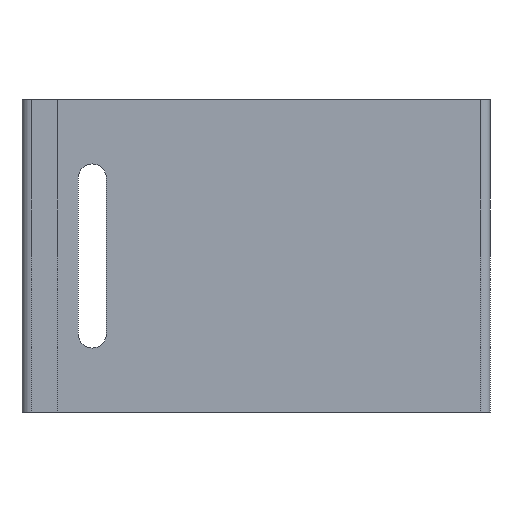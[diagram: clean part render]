
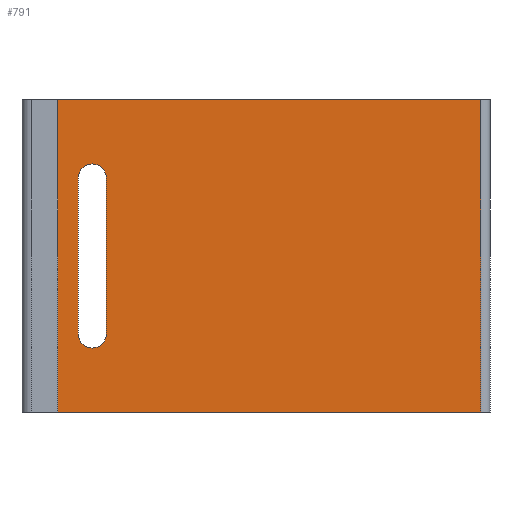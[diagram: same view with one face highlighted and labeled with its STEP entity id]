
A CAD part, front view. The second image highlights one B-rep face of the part: STEP entity #791.
In plain terms, the highlighted planar face has unit normal (0, -1, 0).
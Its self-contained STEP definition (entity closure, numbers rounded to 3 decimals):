
#7 = VERTEX_POINT ( 'NONE', #164 ) ;
#19 = VERTEX_POINT ( 'NONE', #801 ) ;
#20 = VERTEX_POINT ( 'NONE', #809 ) ;
#31 = VERTEX_POINT ( 'NONE', #797 ) ;
#158 = EDGE_CURVE ( 'NONE', #930, #946, #356, .T. ) ;
#160 = EDGE_LOOP ( 'NONE', ( #831, #934, #953, #951, #950 ) ) ;
#164 = CARTESIAN_POINT ( 'NONE',  ( 15.5, 45., 25. ) ) ;
#320 = FACE_OUTER_BOUND ( 'NONE', #933, .T. ) ;
#351 = DIRECTION ( 'NONE',  ( 0., 0., -1. ) ) ;
#352 = VECTOR ( 'NONE', #351, 1000. ) ;
#356 = LINE ( 'NONE', #368, #352 ) ;
#368 = CARTESIAN_POINT ( 'NONE',  ( 6.5, 45., 25. ) ) ;
#370 = VECTOR ( 'NONE', #420, 1000. ) ;
#371 = CARTESIAN_POINT ( 'NONE',  ( -8.5, 45., 50. ) ) ;
#372 = LINE ( 'NONE', #371, #370 ) ;
#375 = AXIS2_PLACEMENT_3D ( 'NONE', #391, #379, #387 ) ;
#379 = DIRECTION ( 'NONE',  ( 0., 1., 0. ) ) ;
#385 = PLANE ( 'NONE',  #375 ) ;
#386 = FACE_BOUND ( 'NONE', #160, .T. ) ;
#387 = DIRECTION ( 'NONE',  ( 0., 0., 1. ) ) ;
#391 = CARTESIAN_POINT ( 'NONE',  ( -11.5, 45., 50. ) ) ;
#420 = DIRECTION ( 'NONE',  ( 0., 0., -1. ) ) ;
#452 = CARTESIAN_POINT ( 'NONE',  ( 135.5, 45., -50. ) ) ;
#467 = CARTESIAN_POINT ( 'NONE',  ( 135.5, 45., 50. ) ) ;
#474 = LINE ( 'NONE', #512, #511 ) ;
#488 = CARTESIAN_POINT ( 'NONE',  ( -8.5, 45., -50. ) ) ;
#510 = DIRECTION ( 'NONE',  ( 1., 0., 0. ) ) ;
#511 = VECTOR ( 'NONE', #510, 1000. ) ;
#512 = CARTESIAN_POINT ( 'NONE',  ( -11.5, 45., 50. ) ) ;
#544 = DIRECTION ( 'NONE',  ( 1., 0., 0. ) ) ;
#545 = VECTOR ( 'NONE', #544, 1000. ) ;
#546 = CARTESIAN_POINT ( 'NONE',  ( -11.5, 45., -50. ) ) ;
#559 = LINE ( 'NONE', #546, #545 ) ;
#581 = CIRCLE ( 'NONE', #659, 4.5 ) ;
#607 = DIRECTION ( 'NONE',  ( 0., 0., -1. ) ) ;
#608 = VECTOR ( 'NONE', #607, 1000. ) ;
#609 = CARTESIAN_POINT ( 'NONE',  ( 135.5, 45., 50. ) ) ;
#611 = LINE ( 'NONE', #609, #608 ) ;
#616 = DIRECTION ( 'NONE',  ( 0., 0., 1. ) ) ;
#617 = VECTOR ( 'NONE', #616, 1000. ) ;
#618 = CARTESIAN_POINT ( 'NONE',  ( 15.5, 45., 25. ) ) ;
#620 = AXIS2_PLACEMENT_3D ( 'NONE', #645, #644, #643 ) ;
#621 = LINE ( 'NONE', #618, #617 ) ;
#637 = CARTESIAN_POINT ( 'NONE',  ( 6.5, 45., 25. ) ) ;
#638 = CARTESIAN_POINT ( 'NONE',  ( 6.5, 45., -25. ) ) ;
#640 = DIRECTION ( 'NONE',  ( 0., 0., -1. ) ) ;
#641 = DIRECTION ( 'NONE',  ( 0., -1., 0. ) ) ;
#642 = AXIS2_PLACEMENT_3D ( 'NONE', #646, #641, #640 ) ;
#643 = DIRECTION ( 'NONE',  ( 0., 0., -1. ) ) ;
#644 = DIRECTION ( 'NONE',  ( 0., -1., 0. ) ) ;
#645 = CARTESIAN_POINT ( 'NONE',  ( 11., 45., -25. ) ) ;
#646 = CARTESIAN_POINT ( 'NONE',  ( 11., 45., -25. ) ) ;
#647 = CIRCLE ( 'NONE', #642, 4.5 ) ;
#651 = CIRCLE ( 'NONE', #620, 4.5 ) ;
#656 = DIRECTION ( 'NONE',  ( 0., 0., -1. ) ) ;
#657 = DIRECTION ( 'NONE',  ( 0., -1., 0. ) ) ;
#658 = CARTESIAN_POINT ( 'NONE',  ( 11., 45., 25. ) ) ;
#659 = AXIS2_PLACEMENT_3D ( 'NONE', #658, #657, #656 ) ;
#791 = ADVANCED_FACE ( 'NONE', ( #386, #320 ), #385, .F. ) ;
#797 = CARTESIAN_POINT ( 'NONE',  ( -8.5, 45., 50. ) ) ;
#801 = CARTESIAN_POINT ( 'NONE',  ( 11., 45., -29.5 ) ) ;
#809 = CARTESIAN_POINT ( 'NONE',  ( 15.5, 45., -25. ) ) ;
#813 = EDGE_CURVE ( 'NONE', #31, #880, #372, .T. ) ;
#831 = ORIENTED_EDGE ( 'NONE', *, *, #158, .F. ) ;
#840 = VERTEX_POINT ( 'NONE', #452 ) ;
#867 = VERTEX_POINT ( 'NONE', #467 ) ;
#868 = EDGE_CURVE ( 'NONE', #31, #867, #474, .T. ) ;
#880 = VERTEX_POINT ( 'NONE', #488 ) ;
#906 = EDGE_CURVE ( 'NONE', #880, #840, #559, .T. ) ;
#930 = VERTEX_POINT ( 'NONE', #637 ) ;
#933 = EDGE_LOOP ( 'NONE', ( #944, #956, #938, #968 ) ) ;
#934 = ORIENTED_EDGE ( 'NONE', *, *, #947, .F. ) ;
#938 = ORIENTED_EDGE ( 'NONE', *, *, #868, .F. ) ;
#939 = EDGE_CURVE ( 'NONE', #20, #7, #621, .T. ) ;
#941 = EDGE_CURVE ( 'NONE', #867, #840, #611, .T. ) ;
#944 = ORIENTED_EDGE ( 'NONE', *, *, #906, .T. ) ;
#946 = VERTEX_POINT ( 'NONE', #638 ) ;
#947 = EDGE_CURVE ( 'NONE', #7, #930, #581, .T. ) ;
#950 = ORIENTED_EDGE ( 'NONE', *, *, #965, .F. ) ;
#951 = ORIENTED_EDGE ( 'NONE', *, *, #974, .F. ) ;
#953 = ORIENTED_EDGE ( 'NONE', *, *, #939, .F. ) ;
#956 = ORIENTED_EDGE ( 'NONE', *, *, #941, .F. ) ;
#965 = EDGE_CURVE ( 'NONE', #946, #19, #651, .T. ) ;
#968 = ORIENTED_EDGE ( 'NONE', *, *, #813, .T. ) ;
#974 = EDGE_CURVE ( 'NONE', #19, #20, #647, .T. ) ;
